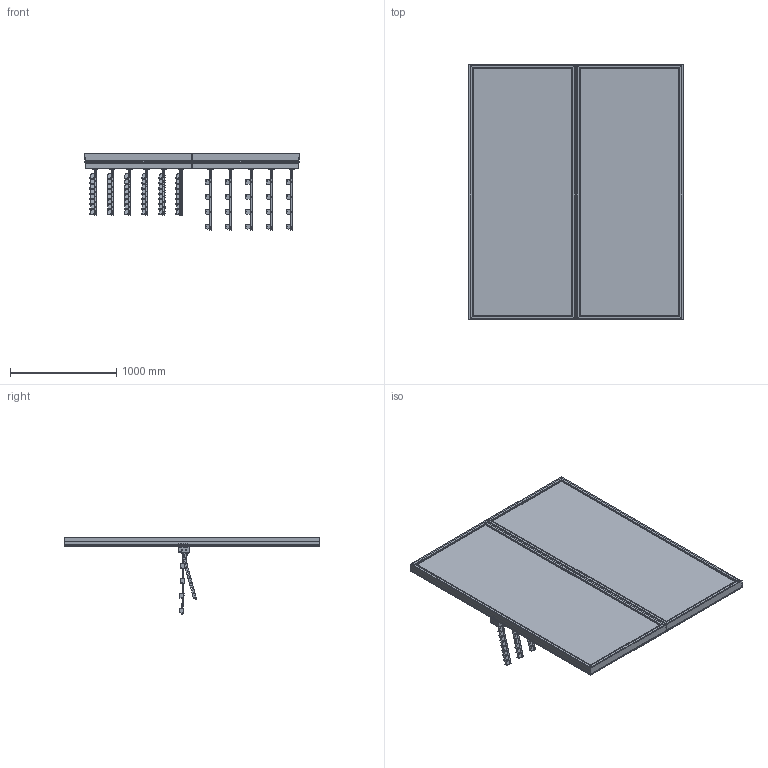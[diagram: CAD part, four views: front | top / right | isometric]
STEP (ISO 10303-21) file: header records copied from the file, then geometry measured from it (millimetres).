
FILE_DESCRIPTION (( 'STEP AP203' ), '1' );
FILE_NAME ('Slotted UpBright® Double Golf Club Wall Display.STEP', '2026-04-02T12:55:00', ( '' ), ( '' ), 'SwSTEP 2.0', 'SolidWorks 2025', '' );
FILE_SCHEMA (( 'CONFIG_CONTROL_DESIGN' ));
Length unit declared in the file: millimetre
Products named in the file (5): 0001-31-SA32 - Driver Arm; 0001-31-GA10 - 1005W Slotted upbright; 0001-31-SA36 - 1005W Slatwall Extender; 0001-31-SA33 - Iron Arm; Slotted UpBright® Double Golf Club Wall Display
Assembly tree (15 placements, depth 2):
  Slotted UpBright® Double Golf Club Wall Display
    0001-31-SA36 - 1005W Slatwall Extender  x2
    0001-31-SA32 - Driver Arm  x5
    0001-31-SA33 - Iron Arm  x6
    0001-31-GA10 - 1005W Slotted upbright  x2
Bounding box: 2011.48 x 2400 x 721.34 mm (x, y, z)
Volume: 29275617.4 mm3; surface area: 26059135.4 mm2
Topology: 217 solids, 217 shells, 6409 faces, 17492 edges, 11178 vertices
Faces by surface type: plane 3580, cylinder 1874, cone 748, torus 174, bspline 33
Entity records: 59141 total; most frequent: CARTESIAN_POINT 13214, ORIENTED_EDGE 9740, DIRECTION 8992, EDGE_CURVE 4870, LINE 3688, VECTOR 3688, VERTEX_POINT 3168, AXIS2_PLACEMENT_3D 2652
